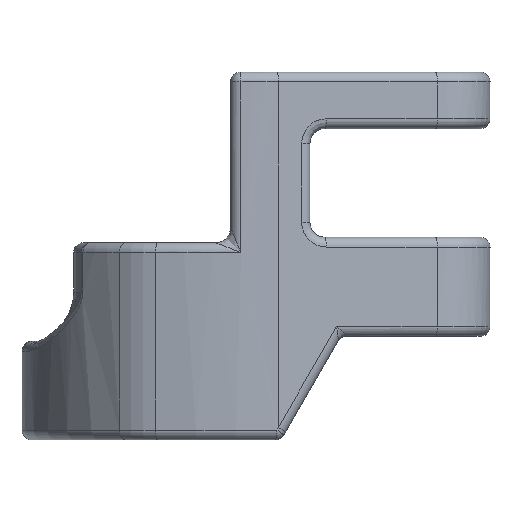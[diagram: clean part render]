
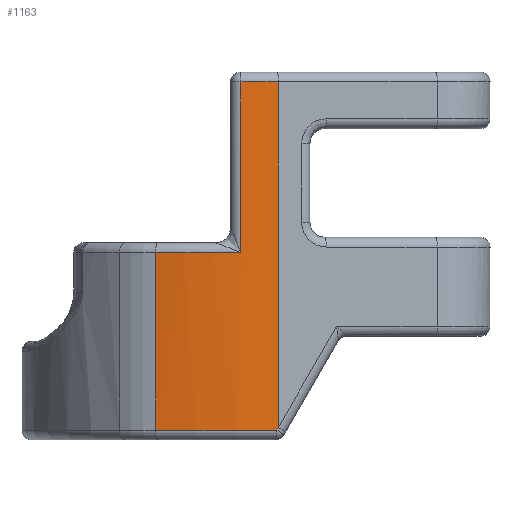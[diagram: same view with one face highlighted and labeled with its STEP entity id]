
A CAD part, front view. The second image highlights one B-rep face of the part: STEP entity #1163.
In plain terms, the highlighted cylindrical face has radius 71.672 mm (diameter 143.344 mm), a partial arc.
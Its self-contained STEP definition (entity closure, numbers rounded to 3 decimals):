
#16 = LINE ( 'NONE', #4142, #1015 ) ;
#114 = CARTESIAN_POINT ( 'NONE',  ( 9.565, 52.483, 14.86 ) ) ;
#147 = CIRCLE ( 'NONE', #1750, 71.672 ) ;
#174 = CARTESIAN_POINT ( 'NONE',  ( 9.565, 52.483, 49.485 ) ) ;
#271 = DIRECTION ( 'NONE',  ( 0., 0., -1. ) ) ;
#407 = CARTESIAN_POINT ( 'NONE',  ( 9.565, 52.483, -21.135 ) ) ;
#446 = CARTESIAN_POINT ( 'NONE',  ( 21.609, -18.17, -20.561 ) ) ;
#454 = LINE ( 'NONE', #1416, #1635 ) ;
#670 = CARTESIAN_POINT ( 'NONE',  ( 21.609, -18.17, 49.485 ) ) ;
#748 = LINE ( 'NONE', #2967, #1188 ) ;
#755 = ORIENTED_EDGE ( 'NONE', *, *, #3424, .T. ) ;
#973 = DIRECTION ( 'NONE',  ( 0., 0., 1. ) ) ;
#997 = CARTESIAN_POINT ( 'NONE',  ( 21.268, -18.227, -21.135 ) ) ;
#1005 = CIRCLE ( 'NONE', #3749, 71.672 ) ;
#1015 = VECTOR ( 'NONE', #973, 1000. ) ;
#1071 = ORIENTED_EDGE ( 'NONE', *, *, #1471, .T. ) ;
#1115 =( BOUNDED_CURVE ( )  B_SPLINE_CURVE ( 3, ( #1300, #2580, #1959, #446 ),
 .UNSPECIFIED., .F., .T. ) 
 B_SPLINE_CURVE_WITH_KNOTS ( ( 4, 4 ),
 ( 1.735, 1.74 ),
 .UNSPECIFIED. ) 
 CURVE ( )  GEOMETRIC_REPRESENTATION_ITEM ( )  RATIONAL_B_SPLINE_CURVE ( ( 1., 1., 1., 1. ) ) 
 REPRESENTATION_ITEM ( '' )  );
#1116 = EDGE_CURVE ( 'NONE', #1645, #2634, #454, .T. ) ;
#1163 = ADVANCED_FACE ( 'NONE', ( #3675 ), #4005, .T. ) ;
#1188 = VECTOR ( 'NONE', #3679, 1000. ) ;
#1193 = ORIENTED_EDGE ( 'NONE', *, *, #3522, .T. ) ;
#1300 = CARTESIAN_POINT ( 'NONE',  ( 21.268, -18.227, -21.135 ) ) ;
#1303 = ORIENTED_EDGE ( 'NONE', *, *, #1914, .F. ) ;
#1416 = CARTESIAN_POINT ( 'NONE',  ( -3.286, -18.028, 35. ) ) ;
#1471 = EDGE_CURVE ( 'NONE', #3301, #1645, #1005, .T. ) ;
#1635 = VECTOR ( 'NONE', #2406, 1000. ) ;
#1645 = VERTEX_POINT ( 'NONE', #2458 ) ;
#1700 = AXIS2_PLACEMENT_3D ( 'NONE', #3950, #2098, #3383 ) ;
#1724 = DIRECTION ( 'NONE',  ( 1., 0., 0. ) ) ;
#1750 = AXIS2_PLACEMENT_3D ( 'NONE', #174, #271, #1724 ) ;
#1849 = VERTEX_POINT ( 'NONE', #670 ) ;
#1914 = EDGE_CURVE ( 'NONE', #1849, #2022, #748, .T. ) ;
#1959 = CARTESIAN_POINT ( 'NONE',  ( 21.496, -18.19, -20.752 ) ) ;
#2022 = VERTEX_POINT ( 'NONE', #3660 ) ;
#2032 = DIRECTION ( 'NONE',  ( 0., 0., -1. ) ) ;
#2037 = ORIENTED_EDGE ( 'NONE', *, *, #4058, .F. ) ;
#2098 = DIRECTION ( 'NONE',  ( 0., 0., -1. ) ) ;
#2406 = DIRECTION ( 'NONE',  ( 0., 0., -1. ) ) ;
#2458 = CARTESIAN_POINT ( 'NONE',  ( -3.286, -18.028, 14.86 ) ) ;
#2580 = CARTESIAN_POINT ( 'NONE',  ( 21.382, -18.209, -20.943 ) ) ;
#2634 = VERTEX_POINT ( 'NONE', #2989 ) ;
#2660 = DIRECTION ( 'NONE',  ( 1., 0., 0. ) ) ;
#2722 = VERTEX_POINT ( 'NONE', #3845 ) ;
#2736 = AXIS2_PLACEMENT_3D ( 'NONE', #407, #2953, #3568 ) ;
#2864 = ORIENTED_EDGE ( 'NONE', *, *, #1116, .T. ) ;
#2929 = CARTESIAN_POINT ( 'NONE',  ( 14.022, -19.051, 14.86 ) ) ;
#2953 = DIRECTION ( 'NONE',  ( 0., 0., 1. ) ) ;
#2967 = CARTESIAN_POINT ( 'NONE',  ( 21.609, -18.17, 35. ) ) ;
#2989 = CARTESIAN_POINT ( 'NONE',  ( -3.286, -18.028, -21.135 ) ) ;
#3047 = ORIENTED_EDGE ( 'NONE', *, *, #3555, .T. ) ;
#3290 = CIRCLE ( 'NONE', #2736, 71.672 ) ;
#3301 = VERTEX_POINT ( 'NONE', #2929 ) ;
#3383 = DIRECTION ( 'NONE',  ( -1., 0., 0. ) ) ;
#3384 = EDGE_LOOP ( 'NONE', ( #2037, #1071, #2864, #755, #1193, #1303, #3047 ) ) ;
#3424 = EDGE_CURVE ( 'NONE', #2634, #3665, #3290, .T. ) ;
#3522 = EDGE_CURVE ( 'NONE', #3665, #2022, #1115, .T. ) ;
#3555 = EDGE_CURVE ( 'NONE', #1849, #2722, #147, .T. ) ;
#3568 = DIRECTION ( 'NONE',  ( -1., 0., 0. ) ) ;
#3660 = CARTESIAN_POINT ( 'NONE',  ( 21.609, -18.17, -20.561 ) ) ;
#3665 = VERTEX_POINT ( 'NONE', #997 ) ;
#3675 = FACE_OUTER_BOUND ( 'NONE', #3384, .T. ) ;
#3679 = DIRECTION ( 'NONE',  ( 0., 0., -1. ) ) ;
#3749 = AXIS2_PLACEMENT_3D ( 'NONE', #114, #2032, #2660 ) ;
#3845 = CARTESIAN_POINT ( 'NONE',  ( 14.022, -19.051, 49.485 ) ) ;
#3950 = CARTESIAN_POINT ( 'NONE',  ( 9.565, 52.483, 35. ) ) ;
#4005 = CYLINDRICAL_SURFACE ( 'NONE', #1700, 71.672 ) ;
#4058 = EDGE_CURVE ( 'NONE', #3301, #2722, #16, .T. ) ;
#4142 = CARTESIAN_POINT ( 'NONE',  ( 14.022, -19.051, 12.72 ) ) ;
